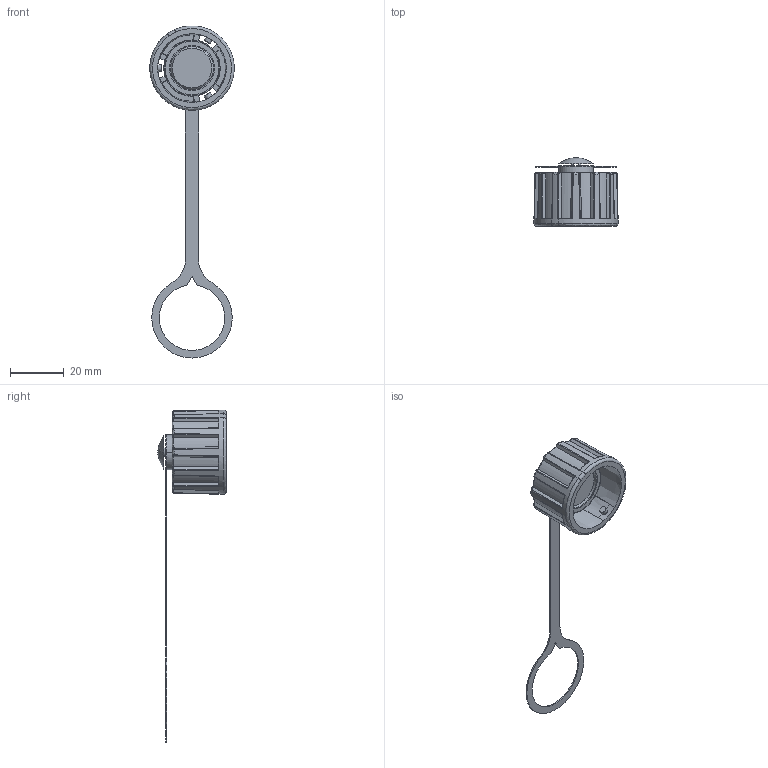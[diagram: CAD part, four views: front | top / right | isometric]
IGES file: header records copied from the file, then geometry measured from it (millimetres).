
Start section:  PTC IGES file: cap-weoftpc1.igs
Global section: file name: cap-weoftpc1.igs; native system: Creo Parametric by Parametric Technology Corporation; preprocessor: 2017170; author: L210038; organization: Unknown; date: 20211007.133625; units: millimetre
Bounding box: 31.36 x 25.5 x 123.68 mm (x, y, z)
Volume: 8107.7 mm3; surface area: 8234.4 mm2
Topology: 1 solids, 1 shells, 251 faces, 652 edges, 407 vertices
Faces by surface type: bspline 137, revolution 114
